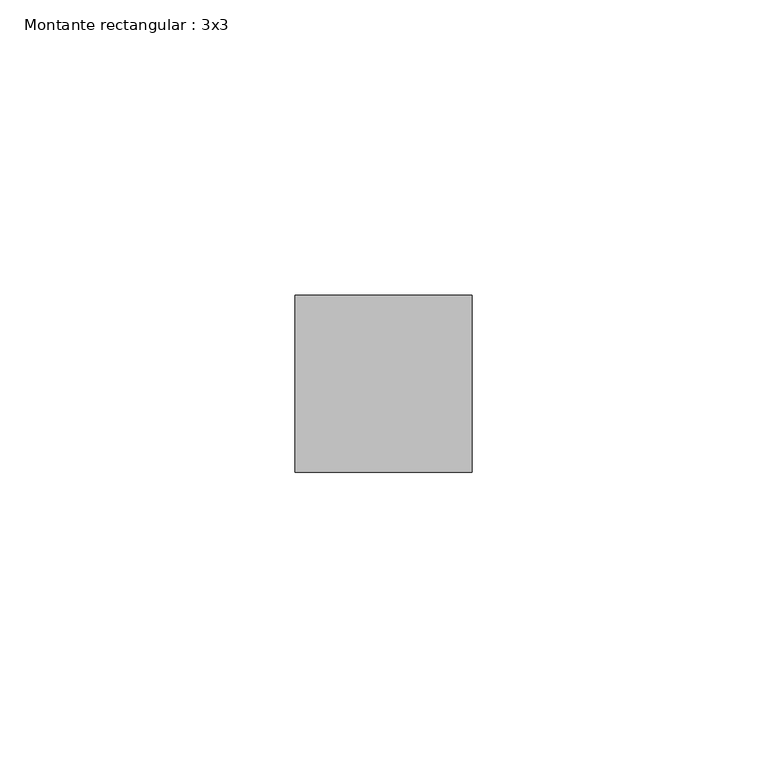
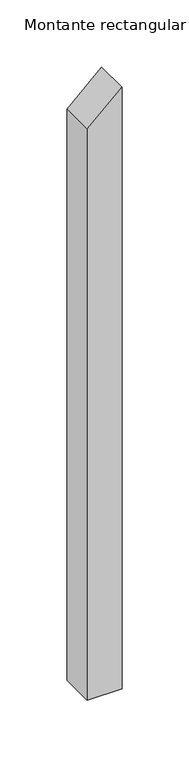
"""IFC4 building model written with IfcOpenShell, lengths in millimetres: member geometry, Montante rectangular : 3x3."""

from ifc_helpers import new_model, si_unit, frame, origin, place, context, project, spatial, polyline, outline, extrude, source, transform, mapped, element, save


def montante_rectangular_3x3_4dd73645(model_context):
    return source(origin(), model_context, "Body", "SweptSolid", [
        extrude(outline(polyline([(0.0, 0.0), (-27.887775, -30.0), (-547.6254192, -30.0), (-547.6254192, 0.0), (0.0, 0.0)])), frame((0.0, -15.0, 0.0), z_axis=(0.0, 1.0, 0.0), x_axis=(0.0, 0.0, 1.0)), (0.0, 0.0, 1.0), 30.0),
    ])


if __name__ == "__main__":
    model = new_model("IFC4")
    model_context = context("Model", 3, world=origin())
    ifc_project = project(units=[si_unit("LENGTHUNIT", "METRE", prefix="MILLI")], contexts=[model_context])
    site = spatial("IfcSite", under=ifc_project)
    building = spatial("IfcBuilding", under=site)
    placement = place(None, origin())
    montante_rectangular_3x3_shape = montante_rectangular_3x3_4dd73645(model_context)
    element("IfcMember", 1, ObjectType="Montante rectangular : 3x3", at=placement, inside=building, context=model_context, shape_type="MappedRepresentation", body=[
        mapped(montante_rectangular_3x3_shape, transform((0.0, 0.0, 0.0), x_axis=(1.0, 0.0, 0.0), y_axis=(0.0, 1.0, 0.0), z_axis=(0.0, 0.0, 1.0))),
    ])
    save(model, "model.ifc")
